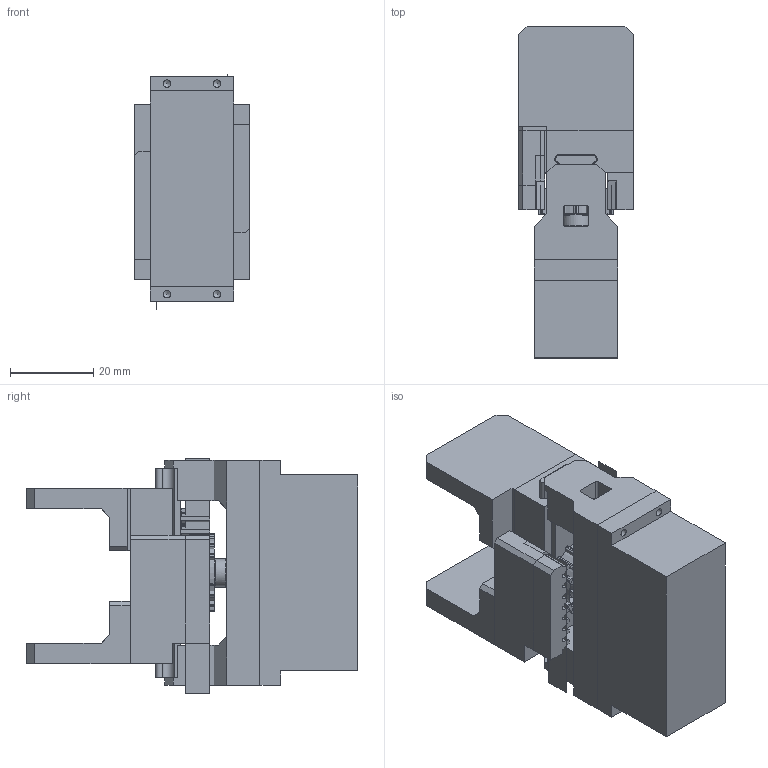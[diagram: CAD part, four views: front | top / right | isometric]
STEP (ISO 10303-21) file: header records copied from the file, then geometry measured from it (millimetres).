
FILE_DESCRIPTION(/* description */ ('','CAx-IF Rec.Pracs.---Representation and Presentation of Product Manufacturing Information (PMI)---4.0---2014-10-13'),/* implementation_level */ '2;1');
FILE_NAME(/* name */ 'Assieme_pinza_mg90s_chiusa.stp',/* time_stamp */ '2026-03-29T20:29:59+02:00',/* author */ ('R5800u'),/* organization */ (''),/* preprocessor_version */ 'ST-DEVELOPER v20',/* originating_system */ 'Autodesk Inventor 2025',/* authorisation */ '');
FILE_SCHEMA (('CONFIG_CONTROL_DESIGN','MODEL_BASED_INTEGRATED_MANUFACTURING_SCHEMA','AP242_MANAGED_MODEL_BASED_3D_ENGINEERING_MIM_LF { 1 0 10303 442 1 1 4 }'));
Length unit declared in the file: millimetre
Products named in the file (10): Assieme_pinza_mg90s_chiusa; guida; MG90_ldb; pignone_17mm; cremagliera2; supporto_guida_chiuso; cremagliera1; dito; MG90S ARM 2x; copertura_servo
Assembly tree (10 placements, depth 2):
  Assieme_pinza_mg90s_chiusa
    guida
    MG90_ldb
    pignone_17mm
    cremagliera2
    supporto_guida_chiuso
    cremagliera1
    dito  x2
    MG90S ARM 2x
    copertura_servo
Bounding box: 27.5 x 79.58 x 56.51 mm (x, y, z)
Volume: 47501.1 mm3; surface area: 31627.5 mm2
Topology: 10 solids, 13 shells, 764 faces, 2116 edges, 1408 vertices
Faces by surface type: plane 466, cylinder 209, bspline 85, cone 4
Full cylindrical faces by diameter (mm): 0.8 x2, 1.167 x3, 1.5 x2, 1.8 x8, 2 x18, 2.2 x14, 2.7 x1, 4 x6, 4.4 x3, 5 x2, 5.5 x1, 6.8 x1, 17 x1
Entity records: 39231 total; most frequent: CARTESIAN_POINT 14192, DIRECTION 4502, ORIENTED_EDGE 4094, EDGE_CURVE 2052, STYLED_ITEM 1862, AXIS2_PLACEMENT_3D 1554, LINE 1394, VECTOR 1394
